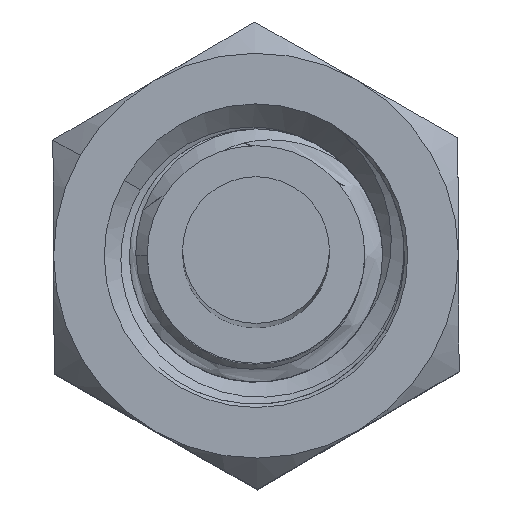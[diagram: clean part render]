
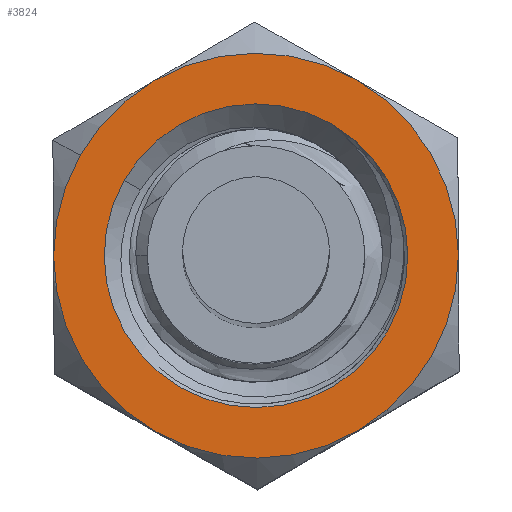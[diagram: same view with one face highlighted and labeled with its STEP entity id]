
A CAD part, top view. The second image highlights one B-rep face of the part: STEP entity #3824.
In plain terms, the highlighted planar face has unit normal (0, 0, 1).
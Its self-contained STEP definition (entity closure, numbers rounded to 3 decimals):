
#15 = CARTESIAN_POINT ( 'NONE',  ( 0., 0., 3. ) ) ;
#261 = CARTESIAN_POINT ( 'NONE',  ( 0., 0., 3. ) ) ;
#302 = DIRECTION ( 'NONE',  ( 0., 0., -1. ) ) ;
#523 = CARTESIAN_POINT ( 'NONE',  ( 0., 0., 3. ) ) ;
#707 = FACE_BOUND ( 'NONE', #1492, .T. ) ;
#798 = AXIS2_PLACEMENT_3D ( 'NONE', #2177, #3645, #2671 ) ;
#954 = VERTEX_POINT ( 'NONE', #3846 ) ;
#1039 = CARTESIAN_POINT ( 'NONE',  ( 0., 0., 3. ) ) ;
#1167 = DIRECTION ( 'NONE',  ( 0., 0., -1. ) ) ;
#1372 = CIRCLE ( 'NONE', #4494, 4. ) ;
#1412 = ORIENTED_EDGE ( 'NONE', *, *, #5054, .F. ) ;
#1452 = DIRECTION ( 'NONE',  ( 0., 0., -1. ) ) ;
#1460 = EDGE_CURVE ( 'NONE', #2637, #4841, #6670, .T. ) ;
#1492 = EDGE_LOOP ( 'NONE', ( #5016, #3649 ) ) ;
#1530 = VERTEX_POINT ( 'NONE', #1833 ) ;
#1546 = CIRCLE ( 'NONE', #6337, 3. ) ;
#1698 = CARTESIAN_POINT ( 'NONE',  ( 0., -4., 3. ) ) ;
#1725 = CARTESIAN_POINT ( 'NONE',  ( 0., 0., 3. ) ) ;
#1768 = CIRCLE ( 'NONE', #4325, 4. ) ;
#1831 = DIRECTION ( 'NONE',  ( 1., 0., 0. ) ) ;
#1833 = CARTESIAN_POINT ( 'NONE',  ( -3.464, 2., 3. ) ) ;
#1866 = DIRECTION ( 'NONE',  ( 0., 0., -1. ) ) ;
#1937 = EDGE_CURVE ( 'NONE', #4841, #2621, #2376, .T. ) ;
#1972 = AXIS2_PLACEMENT_3D ( 'NONE', #3340, #1167, #4980 ) ;
#1975 = ORIENTED_EDGE ( 'NONE', *, *, #1460, .F. ) ;
#1984 = VERTEX_POINT ( 'NONE', #4253 ) ;
#2065 = EDGE_CURVE ( 'NONE', #954, #4113, #6057, .T. ) ;
#2177 = CARTESIAN_POINT ( 'NONE',  ( 0., 0., 3. ) ) ;
#2274 = AXIS2_PLACEMENT_3D ( 'NONE', #523, #6871, #4369 ) ;
#2353 = ORIENTED_EDGE ( 'NONE', *, *, #1937, .F. ) ;
#2376 = CIRCLE ( 'NONE', #798, 4. ) ;
#2621 = VERTEX_POINT ( 'NONE', #5899 ) ;
#2637 = VERTEX_POINT ( 'NONE', #3633 ) ;
#2671 = DIRECTION ( 'NONE',  ( 1., 0., 0. ) ) ;
#2932 = AXIS2_PLACEMENT_3D ( 'NONE', #4716, #5303, #6860 ) ;
#2950 = CARTESIAN_POINT ( 'NONE',  ( 0., 0., 3. ) ) ;
#3182 = DIRECTION ( 'NONE',  ( 0., 0., -1. ) ) ;
#3226 = EDGE_CURVE ( 'NONE', #1530, #954, #4932, .T. ) ;
#3340 = CARTESIAN_POINT ( 'NONE',  ( 0., 0., 3. ) ) ;
#3364 = FACE_OUTER_BOUND ( 'NONE', #3625, .T. ) ;
#3463 = DIRECTION ( 'NONE',  ( 0., 0., -1. ) ) ;
#3477 = VERTEX_POINT ( 'NONE', #5608 ) ;
#3480 = EDGE_CURVE ( 'NONE', #5550, #1530, #3942, .T. ) ;
#3488 = ORIENTED_EDGE ( 'NONE', *, *, #2065, .F. ) ;
#3625 = EDGE_LOOP ( 'NONE', ( #1975, #6657, #3488, #5610, #3932, #1412, #2353 ) ) ;
#3633 = CARTESIAN_POINT ( 'NONE',  ( 3.464, -2., 3. ) ) ;
#3645 = DIRECTION ( 'NONE',  ( 0., 0., -1. ) ) ;
#3649 = ORIENTED_EDGE ( 'NONE', *, *, #4317, .T. ) ;
#3824 = ADVANCED_FACE ( 'NONE', ( #3364, #707 ), #6504, .T. ) ;
#3846 = CARTESIAN_POINT ( 'NONE',  ( 0., 4., 3. ) ) ;
#3932 = ORIENTED_EDGE ( 'NONE', *, *, #3480, .F. ) ;
#3942 = CIRCLE ( 'NONE', #6836, 4. ) ;
#4113 = VERTEX_POINT ( 'NONE', #6054 ) ;
#4141 = DIRECTION ( 'NONE',  ( -1., 0., 0. ) ) ;
#4253 = CARTESIAN_POINT ( 'NONE',  ( -3., 0., 3. ) ) ;
#4317 = EDGE_CURVE ( 'NONE', #1984, #3477, #5058, .T. ) ;
#4325 = AXIS2_PLACEMENT_3D ( 'NONE', #1039, #3182, #4328 ) ;
#4328 = DIRECTION ( 'NONE',  ( 1., 0., 0. ) ) ;
#4367 = AXIS2_PLACEMENT_3D ( 'NONE', #15, #1452, #4141 ) ;
#4369 = DIRECTION ( 'NONE',  ( 1., 0., 0. ) ) ;
#4444 = DIRECTION ( 'NONE',  ( 1., 0., 0. ) ) ;
#4494 = AXIS2_PLACEMENT_3D ( 'NONE', #2950, #302, #4564 ) ;
#4564 = DIRECTION ( 'NONE',  ( 1., 0., 0. ) ) ;
#4716 = CARTESIAN_POINT ( 'NONE',  ( 0., 0., 3. ) ) ;
#4841 = VERTEX_POINT ( 'NONE', #1698 ) ;
#4932 = CIRCLE ( 'NONE', #4367, 4. ) ;
#4980 = DIRECTION ( 'NONE',  ( 1., 0., 0. ) ) ;
#5016 = ORIENTED_EDGE ( 'NONE', *, *, #5996, .T. ) ;
#5054 = EDGE_CURVE ( 'NONE', #2621, #5550, #1372, .T. ) ;
#5058 = CIRCLE ( 'NONE', #2274, 3. ) ;
#5303 = DIRECTION ( 'NONE',  ( 0., 0., -1. ) ) ;
#5354 = DIRECTION ( 'NONE',  ( 1., 0., 0. ) ) ;
#5428 = DIRECTION ( 'NONE',  ( 0., 0., 1. ) ) ;
#5550 = VERTEX_POINT ( 'NONE', #5644 ) ;
#5608 = CARTESIAN_POINT ( 'NONE',  ( 3., 0., 3. ) ) ;
#5610 = ORIENTED_EDGE ( 'NONE', *, *, #3226, .F. ) ;
#5644 = CARTESIAN_POINT ( 'NONE',  ( -4., 0., 3. ) ) ;
#5732 = AXIS2_PLACEMENT_3D ( 'NONE', #1725, #5428, #5354 ) ;
#5899 = CARTESIAN_POINT ( 'NONE',  ( -3.464, -2., 3. ) ) ;
#5996 = EDGE_CURVE ( 'NONE', #3477, #1984, #1546, .T. ) ;
#6054 = CARTESIAN_POINT ( 'NONE',  ( 3.464, 2., 3. ) ) ;
#6057 = CIRCLE ( 'NONE', #2932, 4. ) ;
#6337 = AXIS2_PLACEMENT_3D ( 'NONE', #6631, #3463, #4444 ) ;
#6369 = EDGE_CURVE ( 'NONE', #4113, #2637, #1768, .T. ) ;
#6504 = PLANE ( 'NONE',  #5732 ) ;
#6631 = CARTESIAN_POINT ( 'NONE',  ( 0., 0., 3. ) ) ;
#6657 = ORIENTED_EDGE ( 'NONE', *, *, #6369, .F. ) ;
#6670 = CIRCLE ( 'NONE', #1972, 4. ) ;
#6836 = AXIS2_PLACEMENT_3D ( 'NONE', #261, #1866, #1831 ) ;
#6860 = DIRECTION ( 'NONE',  ( 1., 0., 0. ) ) ;
#6871 = DIRECTION ( 'NONE',  ( 0., 0., -1. ) ) ;
